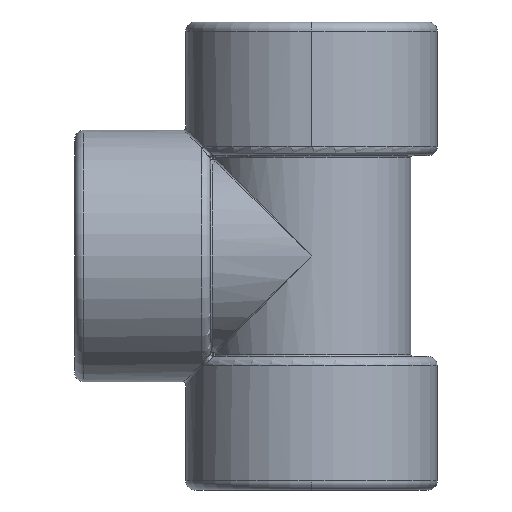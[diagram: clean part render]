
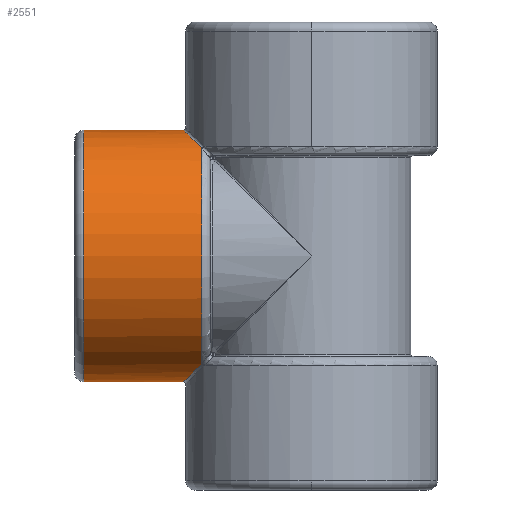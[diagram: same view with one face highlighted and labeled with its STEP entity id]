
A CAD part, left-side view. The second image highlights one B-rep face of the part: STEP entity #2551.
In plain terms, the highlighted cylindrical face has radius 27.775 mm (diameter 55.55 mm), a partial arc.
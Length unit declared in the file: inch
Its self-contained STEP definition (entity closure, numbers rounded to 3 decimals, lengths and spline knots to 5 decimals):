
#100=CYLINDRICAL_SURFACE('',#2692,1.0935);
#269=B_SPLINE_CURVE_WITH_KNOTS('',3,(#16811,#16812,#16813,#16814,#16815,
#16816,#16817,#16818,#16819,#16820,#16821,#16822,#16823),.UNSPECIFIED.,
 .F.,.U.,(4,3,3,3,4),(0.,0.4215,0.64676,0.81403,
1.),.UNSPECIFIED.);
#270=B_SPLINE_CURVE_WITH_KNOTS('',3,(#16827,#16828,#16829,#16830,#16831,
#16832,#16833,#16834,#16835,#16836,#16837,#16838,#16839),.UNSPECIFIED.,
 .F.,.U.,(4,3,3,3,4),(0.,0.2,0.57324,0.66549,1.),
 .UNSPECIFIED.);
#447=VECTOR('',#2894,1.);
#448=VECTOR('',#2897,1.);
#530=LINE('',#16775,#447);
#531=LINE('',#16810,#448);
#698=VERTEX_POINT('',#16769);
#699=VERTEX_POINT('',#16771);
#700=VERTEX_POINT('',#16776);
#703=VERTEX_POINT('',#16809);
#704=VERTEX_POINT('',#16824);
#705=VERTEX_POINT('',#16826);
#854=CIRCLE('',#2689,1.0935);
#858=CIRCLE('',#2694,1.0935);
#1087=EDGE_CURVE('',#698,#699,#854,.T.);
#1090=EDGE_CURVE('',#699,#700,#530,.T.);
#1094=EDGE_CURVE('',#698,#703,#531,.T.);
#1095=EDGE_CURVE('',#703,#704,#269,.F.);
#1096=EDGE_CURVE('',#704,#705,#858,.T.);
#1097=EDGE_CURVE('',#705,#700,#270,.F.);
#1645=ORIENTED_EDGE('',*,*,#1094,.T.);
#1646=ORIENTED_EDGE('',*,*,#1095,.T.);
#1647=ORIENTED_EDGE('',*,*,#1096,.T.);
#1648=ORIENTED_EDGE('',*,*,#1097,.T.);
#1649=ORIENTED_EDGE('',*,*,#1090,.F.);
#1650=ORIENTED_EDGE('',*,*,#1087,.F.);
#2217=EDGE_LOOP('',(#1645,#1646,#1647,#1648,#1649,#1650));
#2386=FACE_BOUND('',#2217,.T.);
#2551=ADVANCED_FACE('',(#2386),#100,.T.);
#2689=AXIS2_PLACEMENT_3D('',#16770,#2886,#2887);
#2692=AXIS2_PLACEMENT_3D('',#16774,#2892,#2893);
#2694=AXIS2_PLACEMENT_3D('',#16825,#2898,#2899);
#2886=DIRECTION('',(0.,1.,0.));
#2887=DIRECTION('',(0.,0.,-1.094));
#2892=DIRECTION('',(0.,1.,0.));
#2893=DIRECTION('',(0.,0.,-1.094));
#2894=DIRECTION('',(0.,-1.,0.));
#2897=DIRECTION('',(0.,-1.,0.));
#2898=DIRECTION('',(0.,1.,0.));
#2899=DIRECTION('',(0.,0.,-1.094));
#16769=CARTESIAN_POINT('',(0.,1.98031,-1.0935));
#16770=CARTESIAN_POINT('',(0.,1.98031,0.));
#16771=CARTESIAN_POINT('',(0.,1.98031,1.0935));
#16774=CARTESIAN_POINT('',(0.,2.05906,0.));
#16775=CARTESIAN_POINT('',(0.,1.98031,1.0935));
#16776=CARTESIAN_POINT('',(0.,1.11319,1.0935));
#16809=CARTESIAN_POINT('',(0.,1.11319,-1.0935));
#16810=CARTESIAN_POINT('',(0.,1.98031,-1.0935));
#16811=CARTESIAN_POINT('',(-0.55908,0.95669,-0.93978));
#16812=CARTESIAN_POINT('',(-0.49343,0.99646,-0.97884));
#16813=CARTESIAN_POINT('',(-0.42102,1.03077,-1.01254));
#16814=CARTESIAN_POINT('',(-0.34305,1.05699,-1.0383));
#16815=CARTESIAN_POINT('',(-0.30138,1.071,-1.05207));
#16816=CARTESIAN_POINT('',(-0.25819,1.08269,-1.06355));
#16817=CARTESIAN_POINT('',(-0.2139,1.09169,-1.07238));
#16818=CARTESIAN_POINT('',(-0.18101,1.09836,-1.07894));
#16819=CARTESIAN_POINT('',(-0.14753,1.10357,-1.08404));
#16820=CARTESIAN_POINT('',(-0.11369,1.10717,-1.08758));
#16821=CARTESIAN_POINT('',(-0.07606,1.11117,-1.09151));
#16822=CARTESIAN_POINT('',(-0.038,1.11319,-1.0935));
#16823=CARTESIAN_POINT('',(0.,1.11319,-1.0935));
#16824=CARTESIAN_POINT('',(-0.55908,0.95669,-0.93978));
#16825=CARTESIAN_POINT('',(0.,0.95669,0.));
#16826=CARTESIAN_POINT('',(-0.55908,0.95669,0.93978));
#16827=CARTESIAN_POINT('',(0.,1.11319,1.0935));
#16828=CARTESIAN_POINT('',(-0.04087,1.11319,1.0935));
#16829=CARTESIAN_POINT('',(-0.0818,1.11084,1.0912));
#16830=CARTESIAN_POINT('',(-0.12218,1.10621,1.08666));
#16831=CARTESIAN_POINT('',(-0.19756,1.09758,1.07818));
#16832=CARTESIAN_POINT('',(-0.271,1.08104,1.06189));
#16833=CARTESIAN_POINT('',(-0.34013,1.05797,1.03926));
#16834=CARTESIAN_POINT('',(-0.35722,1.05227,1.03367));
#16835=CARTESIAN_POINT('',(-0.37405,1.04618,1.02769));
#16836=CARTESIAN_POINT('',(-0.3906,1.03973,1.02136));
#16837=CARTESIAN_POINT('',(-0.45063,1.01635,0.99841));
#16838=CARTESIAN_POINT('',(-0.50698,0.98825,0.97077));
#16839=CARTESIAN_POINT('',(-0.55908,0.95669,0.93978));
